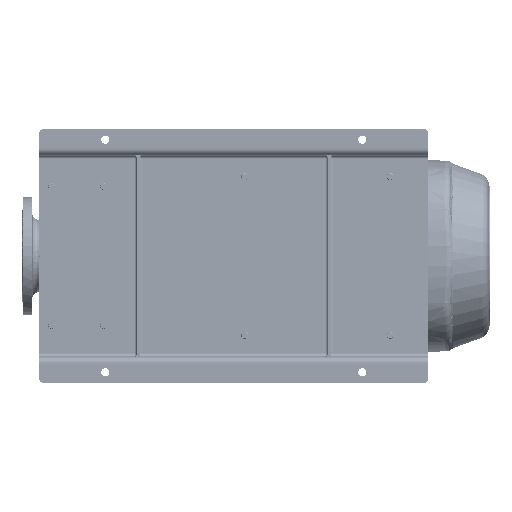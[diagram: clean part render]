
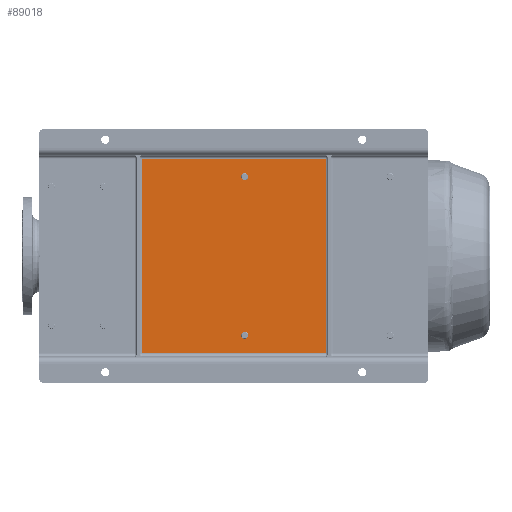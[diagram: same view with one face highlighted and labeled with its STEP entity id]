
A CAD part, front view. The second image highlights one B-rep face of the part: STEP entity #89018.
In plain terms, the highlighted planar face has unit normal (0, -1, 0).
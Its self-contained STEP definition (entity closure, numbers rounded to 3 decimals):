
#3502 = ORIENTED_EDGE ( 'NONE', *, *, #51250, .T. ) ;
#5968 = CARTESIAN_POINT ( 'NONE',  ( 75., 90., -825. ) ) ;
#6030 = EDGE_CURVE ( 'NONE', #74295, #169977, #127048, .T. ) ;
#7199 = VERTEX_POINT ( 'NONE', #65332 ) ;
#7797 = EDGE_CURVE ( 'NONE', #169977, #7199, #42109, .T. ) ;
#12923 = VECTOR ( 'NONE', #115570, 1000. ) ;
#15747 = VECTOR ( 'NONE', #47489, 1000. ) ;
#18183 = DIRECTION ( 'NONE',  ( 0., 0., 1. ) ) ;
#20212 = DIRECTION ( 'NONE',  ( 0., 1., 0. ) ) ;
#23276 = ORIENTED_EDGE ( 'NONE', *, *, #167108, .T. ) ;
#29726 = VERTEX_POINT ( 'NONE', #51891 ) ;
#33256 = DIRECTION ( 'NONE',  ( 0., 0., -1. ) ) ;
#35130 = AXIS2_PLACEMENT_3D ( 'NONE', #86303, #101301, #33256 ) ;
#35801 = FACE_OUTER_BOUND ( 'NONE', #70953, .T. ) ;
#36792 = DIRECTION ( 'NONE',  ( 0., 0., -1. ) ) ;
#40126 = VERTEX_POINT ( 'NONE', #52917 ) ;
#42109 = LINE ( 'NONE', #57949, #154430 ) ;
#47489 = DIRECTION ( 'NONE',  ( 1., 0., 0. ) ) ;
#47641 = ORIENTED_EDGE ( 'NONE', *, *, #85914, .T. ) ;
#50051 = CARTESIAN_POINT ( 'NONE',  ( 85., 90., -830. ) ) ;
#50841 = ORIENTED_EDGE ( 'NONE', *, *, #7797, .T. ) ;
#51250 = EDGE_CURVE ( 'NONE', #40126, #74295, #128715, .T. ) ;
#51891 = CARTESIAN_POINT ( 'NONE',  ( 593.5, 90., -581.5 ) ) ;
#52732 = AXIS2_PLACEMENT_3D ( 'NONE', #133363, #145796, #81203 ) ;
#52917 = CARTESIAN_POINT ( 'NONE',  ( 85., 90., -295. ) ) ;
#57949 = CARTESIAN_POINT ( 'NONE',  ( 645., 90., -290. ) ) ;
#64913 = FACE_BOUND ( 'NONE', #93291, .T. ) ;
#65291 = ORIENTED_EDGE ( 'NONE', *, *, #66694, .T. ) ;
#65332 = CARTESIAN_POINT ( 'NONE',  ( 645., 90., -295. ) ) ;
#66493 = VERTEX_POINT ( 'NONE', #89143 ) ;
#66694 = EDGE_CURVE ( 'NONE', #66493, #159970, #71709, .T. ) ;
#67513 = CIRCLE ( 'NONE', #152232, 10. ) ;
#70553 = LINE ( 'NONE', #124479, #12923 ) ;
#70953 = EDGE_LOOP ( 'NONE', ( #3502, #100363, #50841, #97840 ) ) ;
#71709 = CIRCLE ( 'NONE', #35130, 10. ) ;
#74295 = VERTEX_POINT ( 'NONE', #101120 ) ;
#81203 = DIRECTION ( 'NONE',  ( 0., 0., 1. ) ) ;
#85914 = EDGE_CURVE ( 'NONE', #159970, #66493, #116635, .T. ) ;
#86303 = CARTESIAN_POINT ( 'NONE',  ( 136.5, 90., -591.5 ) ) ;
#86627 = CARTESIAN_POINT ( 'NONE',  ( 593.5, 90., -591.5 ) ) ;
#89018 = ADVANCED_FACE ( 'NONE', ( #64913, #173653, #35801 ), #147111, .T. ) ;
#89143 = CARTESIAN_POINT ( 'NONE',  ( 136.5, 90., -601.5 ) ) ;
#93291 = EDGE_LOOP ( 'NONE', ( #129115, #23276 ) ) ;
#93342 = CARTESIAN_POINT ( 'NONE',  ( 136.5, 90., -581.5 ) ) ;
#97840 = ORIENTED_EDGE ( 'NONE', *, *, #102979, .T. ) ;
#100363 = ORIENTED_EDGE ( 'NONE', *, *, #6030, .T. ) ;
#101120 = CARTESIAN_POINT ( 'NONE',  ( 85., 90., -825. ) ) ;
#101301 = DIRECTION ( 'NONE',  ( 0., 1., 0. ) ) ;
#102979 = EDGE_CURVE ( 'NONE', #7199, #40126, #70553, .T. ) ;
#113994 = DIRECTION ( 'NONE',  ( 0., 1., 0. ) ) ;
#115570 = DIRECTION ( 'NONE',  ( -1., 0., 0. ) ) ;
#116635 = CIRCLE ( 'NONE', #173181, 10. ) ;
#124479 = CARTESIAN_POINT ( 'NONE',  ( 75., 90., -295. ) ) ;
#125054 = CARTESIAN_POINT ( 'NONE',  ( 645., 90., -825. ) ) ;
#126307 = DIRECTION ( 'NONE',  ( 0., 0., -1. ) ) ;
#127048 = LINE ( 'NONE', #5968, #15747 ) ;
#128587 = AXIS2_PLACEMENT_3D ( 'NONE', #157800, #143661, #156906 ) ;
#128715 = LINE ( 'NONE', #50051, #130913 ) ;
#128901 = CARTESIAN_POINT ( 'NONE',  ( 136.5, 90., -591.5 ) ) ;
#129115 = ORIENTED_EDGE ( 'NONE', *, *, #142937, .T. ) ;
#130913 = VECTOR ( 'NONE', #36792, 1000. ) ;
#133363 = CARTESIAN_POINT ( 'NONE',  ( 593.5, 90., -591.5 ) ) ;
#142651 = EDGE_LOOP ( 'NONE', ( #47641, #65291 ) ) ;
#142937 = EDGE_CURVE ( 'NONE', #29726, #167788, #67513, .T. ) ;
#143661 = DIRECTION ( 'NONE',  ( 0., -1., 0. ) ) ;
#145796 = DIRECTION ( 'NONE',  ( 0., 1., 0. ) ) ;
#147111 = PLANE ( 'NONE',  #128587 ) ;
#148578 = CARTESIAN_POINT ( 'NONE',  ( 593.5, 90., -601.5 ) ) ;
#152232 = AXIS2_PLACEMENT_3D ( 'NONE', #86627, #113994, #164451 ) ;
#154430 = VECTOR ( 'NONE', #18183, 1000. ) ;
#154458 = CIRCLE ( 'NONE', #52732, 10. ) ;
#156906 = DIRECTION ( 'NONE',  ( 0., 0., -1. ) ) ;
#157800 = CARTESIAN_POINT ( 'NONE',  ( 75., 90., -1120. ) ) ;
#159970 = VERTEX_POINT ( 'NONE', #93342 ) ;
#164451 = DIRECTION ( 'NONE',  ( 0., 0., 1. ) ) ;
#167108 = EDGE_CURVE ( 'NONE', #167788, #29726, #154458, .T. ) ;
#167788 = VERTEX_POINT ( 'NONE', #148578 ) ;
#169977 = VERTEX_POINT ( 'NONE', #125054 ) ;
#173181 = AXIS2_PLACEMENT_3D ( 'NONE', #128901, #20212, #126307 ) ;
#173653 = FACE_BOUND ( 'NONE', #142651, .T. ) ;
